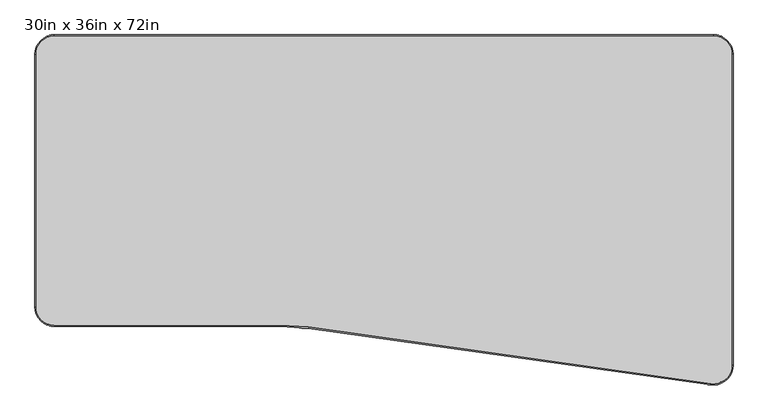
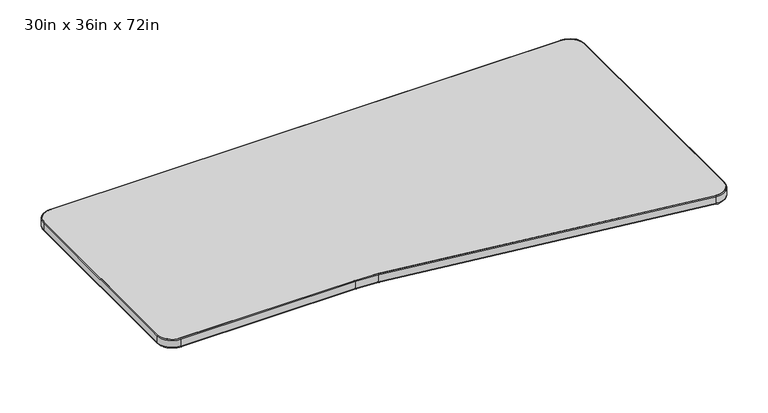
"""IFC4 building model written with IfcOpenShell, lengths in millimetres: furniture geometry, Steelcase - Answer Solution - Universal Table - Transition - Right : 30in x 36in x 72in."""

from ifc_helpers import new_model, si_unit, point, frame, frame_2d, origin, place, context, project, spatial, polyline, circle_curve, ellipse_curve, trimmed, segment, composite_curve, outline, extrude, source, transform, mapped, element, save
from ifc_brep_helpers import plane_surface, cylinder_surface, revolved_surface, advanced_brep


def furniture_30in_x_36in_x_72in_a0267181(model_context):
    return source(origin(), model_context, "Body", "SolidModel", [
        extrude(outline(composite_curve([segment(polyline([(50.8000015, -3.0479999), (1771.65, -3.0479999)]), True, "CONTINUOUS"), segment(trimmed(circle_curve(frame_2d((1771.65, -50.8000271)), 47.7520271), [point((1771.65, -3.0479999))], [point((1819.4020271, -50.8000271))], False, "CARTESIAN"), True, "CONTINUOUS"), segment(polyline([(1819.4020271, -50.8000271), (1819.4020271, -863.5999758)]), True, "CONTINUOUS"), segment(trimmed(circle_curve(frame_2d((1771.567308, -863.8293394)), 47.835269), [point((1819.4020271, -863.5999758))], [point((1765.7376552, -911.3080515))], False, "CARTESIAN"), True, "CONTINUOUS"), segment(polyline([(1765.7376552, -911.3080515), (714.3280552, -763.4988184)]), True, "CONTINUOUS"), segment(trimmed(circle_curve(frame_2d((639.9393929, -1369.3458544)), 610.3968415), [point((714.3280552, -763.4988184))], [point((639.8259893, -758.9490234))], True, "CARTESIAN"), True, "CONTINUOUS"), segment(polyline([(639.8259893, -758.9490234), (50.8000015, -758.9490234)]), True, "CONTINUOUS"), segment(trimmed(circle_curve(frame_2d((50.8000015, -711.1970219)), 47.7520016), [point((50.8000015, -758.9490234))], [point((3.0479999, -711.1970219))], False, "CARTESIAN"), True, "CONTINUOUS"), segment(polyline([(3.0479999, -711.1970219), (3.0479999, -50.8000015)]), True, "CONTINUOUS"), segment(trimmed(circle_curve(frame_2d((50.8000015, -50.8000015)), 47.7520016), [point((3.0479999, -50.8000015))], [point((50.8000015, -3.0479999))], False, "CARTESIAN"), True, "CONTINUOUS")], self_intersect=False)), frame((0.0, 0.0, 668.274), z_axis=(0.0, 0.0, 1.0), x_axis=(1.0, 0.0, 0.0)), (0.0, 0.0, 1.0), 30.0481659),
        advanced_brep(
        [(714.3280552, -763.498818, 668.1439926), (639.8259893, -758.9490231, 668.1439926), (639.8259893, -758.9490231, 698.3221659), (714.3280552, -763.498818, 698.3221659), (713.9562346, -766.5270538, 671.19497), (639.8265562, -762.0000003, 671.19497), (713.9562346, -766.5270538, 695.2711886), (639.8265562, -762.0000003, 695.2711886), (1765.1104635, -911.2310417, 698.3221659), (1765.1104635, -911.2310417, 668.1439926), (1764.6856962, -914.2523056, 671.19497), (1764.6856962, -914.2523056, 695.2711886), (1819.4020268, -863.1979241, 668.1439926), (1819.4020268, -863.1979241, 698.3221659), (1822.4530041, -863.1979241, 671.19497), (1822.4530041, -863.1979241, 695.2711886), (1819.4020268, -50.8000271, 698.3221659), (1819.4020268, -50.8000271, 668.1439926), (1822.4530041, -50.8000271, 671.19497), (1822.4530041, -50.8000271, 695.2711886), (1771.65, -3.0480003, 668.1439926), (1771.65, -3.0480003, 698.3221659), (1771.65, 0.002977, 671.19497), (1771.65, 0.002977, 695.2711886), (50.8000015, -3.0480003, 698.3221659), (50.8000015, -3.0480003, 668.1439926), (50.8000015, 0.002977, 671.19497), (50.8000015, 0.002977, 695.2711886), (3.0480003, -50.8000015, 668.1439926), (3.0480003, -50.8000015, 698.3221659), (-0.002977, -50.8000015, 671.19497), (-0.002977, -50.8000015, 695.2711886), (3.0480003, -711.1970219, 698.3221659), (3.0480003, -711.1970219, 668.1439926), (-0.002977, -711.1970219, 671.19497), (-0.002977, -711.1970219, 695.2711886), (50.8000015, -758.9490231, 668.1439926), (50.8000015, -758.9490231, 698.3221659), (50.8000015, -762.0000004, 671.19497), (50.8000015, -762.0000004, 695.2711886)],
        [
            (0, 1, circle_curve(frame((639.9393929, -1369.3458543, 668.1439926), z_axis=(0.0, 0.0, 1.0), x_axis=(-0.00018578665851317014, 0.9999999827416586, 0.0)), 610.3968418)),
            (1, 2),
            (2, 3, circle_curve(frame((639.9393929, -1369.3458543, 698.3221659), z_axis=(0.0, 0.0, -1.0), x_axis=(-0.00018578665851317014, 0.9999999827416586, 0.0)), 610.3968418)),
            (3, 0),
            (4, 5, circle_curve(frame((639.9393929, -1369.3458543, 671.19497), z_axis=(0.0, 0.0, 1.0), x_axis=(-0.00018578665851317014, 0.9999999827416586, 0.0)), 607.3458645)),
            (5, 1, circle_curve(frame((639.8259893, -758.9490231, 671.19497), z_axis=(0.9999999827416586, 0.00018578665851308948, 0.0), x_axis=(-0.00018578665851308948, 0.9999999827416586, 0.0)), 3.0509773)),
            (0, 4, circle_curve(frame((714.3280552, -763.498818, 671.19497), z_axis=(-0.9925461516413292, 0.12186934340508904, 0.0), x_axis=(0.12186934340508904, 0.9925461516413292, 0.0)), 3.0509773)),
            (6, 7, circle_curve(frame((639.9393929, -1369.3458543, 695.2711886), z_axis=(0.0, 0.0, 1.0), x_axis=(-0.00018578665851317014, 0.9999999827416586, 0.0)), 607.3458645)),
            (7, 5),
            (4, 6),
            (2, 7, circle_curve(frame((639.8259893, -758.9490231, 695.2711886), z_axis=(0.9999999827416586, 0.00018578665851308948, 0.0), x_axis=(-0.00018578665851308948, 0.9999999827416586, 0.0)), 3.0509773)),
            (6, 3, circle_curve(frame((714.3280552, -763.498818, 695.2711886), z_axis=(-0.9925461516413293, 0.12186934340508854, 0.0), x_axis=(0.12186934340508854, 0.9925461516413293, 0.0)), 3.0509773)),
            (3, 8),
            (8, 9),
            (9, 0),
            (9, 10, circle_curve(frame((1765.1104635, -911.2310417, 671.19497), z_axis=(-0.9902610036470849, 0.1392233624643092, 0.0), x_axis=(0.1392233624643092, 0.9902610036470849, 0.0)), 3.0509773)),
            (10, 4),
            (10, 11),
            (11, 6),
            (11, 8, circle_curve(frame((1765.1104635, -911.2310417, 695.2711886), z_axis=(-0.9902610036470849, 0.1392233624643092, 0.0), x_axis=(0.1392233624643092, 0.9902610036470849, 0.0)), 3.0509773)),
            (12, 9, circle_curve(frame((1771.0081888, -863.1979241, 668.1439926), z_axis=(0.0, 0.0, -1.0), x_axis=(-0.1218693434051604, -0.9925461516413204, 0.0)), 48.393838)),
            (8, 13, circle_curve(frame((1771.0081888, -863.1979241, 698.3221659), z_axis=(0.0, 0.0, 1.0), x_axis=(-0.1218693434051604, -0.9925461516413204, 0.0)), 48.393838)),
            (13, 12),
            (14, 10, circle_curve(frame((1771.0081888, -863.1979241, 671.19497), z_axis=(0.0, 0.0, -1.0), x_axis=(-0.1218693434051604, -0.9925461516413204, 0.0)), 51.4448153)),
            (12, 14, circle_curve(frame((1819.4020268, -863.1979241, 671.19497), z_axis=(0.0, -1.0, 0.0), x_axis=(-1.0, 0.0, 0.0)), 3.0509773)),
            (15, 11, circle_curve(frame((1771.0081888, -863.1979241, 695.2711886), z_axis=(0.0, 0.0, -1.0), x_axis=(-0.1218693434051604, -0.9925461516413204, 0.0)), 51.4448153)),
            (14, 15),
            (15, 13, circle_curve(frame((1819.4020268, -863.1979241, 695.2711886), z_axis=(0.0, -1.0, 0.0), x_axis=(-1.0, 0.0, 0.0)), 3.0509773)),
            (13, 16),
            (16, 17),
            (17, 12),
            (17, 18, circle_curve(frame((1819.4020268, -50.8000271, 671.19497), z_axis=(0.0, -1.0, 0.0), x_axis=(-1.0, 0.0, 0.0)), 3.0509773)),
            (18, 14),
            (18, 19),
            (19, 15),
            (19, 16, circle_curve(frame((1819.4020268, -50.8000271, 695.2711886), z_axis=(0.0, -1.0, 0.0), x_axis=(-1.0, 0.0, 0.0)), 3.0509773)),
            (20, 17, circle_curve(frame((1771.65, -50.8000271, 668.1439926), z_axis=(0.0, 0.0, -1.0), x_axis=(1.0, 0.0, 0.0)), 47.7520268)),
            (16, 21, circle_curve(frame((1771.65, -50.8000271, 698.3221659), z_axis=(0.0, 0.0, 1.0), x_axis=(1.0, 0.0, 0.0)), 47.7520268)),
            (21, 20),
            (22, 18, circle_curve(frame((1771.65, -50.8000271, 671.19497), z_axis=(0.0, 0.0, -1.0), x_axis=(1.0, 0.0, 0.0)), 50.8030041)),
            (20, 22, circle_curve(frame((1771.65, -3.0480003, 671.19497), z_axis=(1.0, 0.0, 0.0), x_axis=(0.0, -1.0, 0.0)), 3.0509773)),
            (23, 19, circle_curve(frame((1771.65, -50.8000271, 695.2711886), z_axis=(0.0, 0.0, -1.0), x_axis=(1.0, 0.0, 0.0)), 50.8030041)),
            (22, 23),
            (23, 21, circle_curve(frame((1771.65, -3.0480003, 695.2711886), z_axis=(1.0, 0.0, 0.0), x_axis=(0.0, -1.0, 0.0)), 3.0509773)),
            (21, 24),
            (24, 25),
            (25, 20),
            (25, 26, circle_curve(frame((50.8000015, -3.0480003, 671.19497), z_axis=(1.0, 0.0, 0.0), x_axis=(0.0, -1.0, 0.0)), 3.0509773)),
            (26, 22),
            (26, 27),
            (27, 23),
            (27, 24, circle_curve(frame((50.8000015, -3.0480003, 695.2711886), z_axis=(1.0, 0.0, 0.0), x_axis=(0.0, -1.0, 0.0)), 3.0509773)),
            (28, 25, circle_curve(frame((50.8000015, -50.8000015, 668.1439926), z_axis=(0.0, 0.0, -1.0), x_axis=(0.0, 1.0, 0.0)), 47.7520012)),
            (24, 29, circle_curve(frame((50.8000015, -50.8000015, 698.3221659), z_axis=(0.0, 0.0, 1.0), x_axis=(0.0, 1.0, 0.0)), 47.7520012)),
            (29, 28),
            (30, 26, circle_curve(frame((50.8000015, -50.8000015, 671.19497), z_axis=(0.0, 0.0, -1.0), x_axis=(0.0, 1.0, 0.0)), 50.8029785)),
            (28, 30, circle_curve(frame((3.0480003, -50.8000015, 671.19497), z_axis=(0.0, 1.0, 0.0), x_axis=(1.0, 0.0, 0.0)), 3.0509773)),
            (31, 27, circle_curve(frame((50.8000015, -50.8000015, 695.2711886), z_axis=(0.0, 0.0, -1.0), x_axis=(0.0, 1.0, 0.0)), 50.8029785)),
            (30, 31),
            (31, 29, circle_curve(frame((3.0480003, -50.8000015, 695.2711886), z_axis=(0.0, 1.0, 0.0), x_axis=(1.0, 0.0, 0.0)), 3.0509773)),
            (29, 32),
            (32, 33),
            (33, 28),
            (33, 34, circle_curve(frame((3.0480003, -711.1970219, 671.19497), z_axis=(0.0, 1.0, 0.0), x_axis=(1.0, 0.0, 0.0)), 3.0509773)),
            (34, 30),
            (34, 35),
            (35, 31),
            (35, 32, circle_curve(frame((3.0480003, -711.1970219, 695.2711886), z_axis=(0.0, 1.0, 0.0), x_axis=(1.0, 0.0, 0.0)), 3.0509773)),
            (36, 33, circle_curve(frame((50.8000015, -711.1970219, 668.1439926), z_axis=(0.0, 0.0, -1.0), x_axis=(-1.0, 0.0, 0.0)), 47.7520012)),
            (32, 37, circle_curve(frame((50.8000015, -711.1970219, 698.3221659), z_axis=(0.0, 0.0, 1.0), x_axis=(-1.0, 0.0, 0.0)), 47.7520012)),
            (37, 36),
            (38, 34, circle_curve(frame((50.8000015, -711.1970219, 671.19497), z_axis=(0.0, 0.0, -1.0), x_axis=(-1.0, 0.0, 0.0)), 50.8029785)),
            (36, 38, circle_curve(frame((50.8000015, -758.9490231, 671.19497), z_axis=(-1.0, 0.0, 0.0), x_axis=(0.0, 1.0, 0.0)), 3.0509773)),
            (39, 35, circle_curve(frame((50.8000015, -711.1970219, 695.2711886), z_axis=(0.0, 0.0, -1.0), x_axis=(-1.0, 0.0, 0.0)), 50.8029785)),
            (38, 39),
            (39, 37, circle_curve(frame((50.8000015, -758.9490231, 695.2711886), z_axis=(-1.0, 0.0, 0.0), x_axis=(0.0, 1.0, 0.0)), 3.0509773)),
            (37, 2),
            (1, 36),
            (5, 38),
            (7, 39),
        ],
        [
            cylinder_surface(frame((639.9393929, -1369.3458543, 0.0), z_axis=(0.0, 0.0, -1.0), x_axis=(-0.00018578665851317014, 0.9999999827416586, 0.0)), 610.3968418),
            revolved_surface(trimmed(ellipse_curve(frame((639.8259893, -758.9490231, 671.19497), z_axis=(-0.9999999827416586, -0.00018578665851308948, 0.0), x_axis=(-0.00018578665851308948, 0.9999999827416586, 0.0)), 3.0509773, 3.0509773), [point((639.8259893, -758.9490231, 668.1439926))], [point((639.8265562, -762.0000003, 671.19497))], True, "CARTESIAN"), (639.9393929, -1369.3458543, 0.0), (0.0, 0.0, -1.0)),
            revolved_surface(polyline([(639.8265561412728, -762.0000002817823, 671.19497), (639.8265561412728, -762.0000002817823, 695.2711886)]), (639.9393929, -1369.3458543, 0.0), (0.0, 0.0, -1.0)),
            revolved_surface(trimmed(ellipse_curve(frame((639.8259893, -758.9490231, 695.2711886), z_axis=(-0.9999999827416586, -0.00018578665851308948, 0.0), x_axis=(-0.00018578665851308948, 0.9999999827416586, 0.0)), 3.0509773, 3.0509773), [point((639.8265562, -762.0000003, 695.2711886))], [point((639.8259893, -758.9490231, 698.3221659))], True, "CARTESIAN"), (639.9393929, -1369.3458543, 0.0), (0.0, 0.0, -1.0)),
            plane_surface(frame((714.3280552, -763.498818, 698.3221659), z_axis=(0.13922336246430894, 0.9902610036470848, 0.0), x_axis=(0.9902610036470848, -0.13922336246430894, 0.0))),
            cylinder_surface(frame((714.3280552, -763.498818, 671.19497), z_axis=(-0.9902610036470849, 0.1392233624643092, 0.0), x_axis=(0.1392233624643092, 0.9902610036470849, 0.0)), 3.0509773),
            plane_surface(frame((713.9561777, -766.5275178, 671.19497), z_axis=(-0.13922336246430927, -0.9902610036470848, 0.0), x_axis=(0.9902610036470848, -0.13922336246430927, 0.0))),
            cylinder_surface(frame((714.3280552, -763.498818, 695.2711886), z_axis=(-0.9902610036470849, 0.1392233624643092, 0.0), x_axis=(0.1392233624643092, 0.9902610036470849, 0.0)), 3.0509773),
            revolved_surface(polyline([(1765.1104635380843, -911.2310417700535, 698.3221659), (1765.1104635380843, -911.2310417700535, 668.1439926)]), (1771.0081888, -863.1979241, 0.0), (0.0, 0.0, 1.0)),
            revolved_surface(trimmed(ellipse_curve(frame((1765.1104635, -911.2310417, 671.19497), z_axis=(-0.9925461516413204, 0.12186934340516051, 0.0), x_axis=(0.12186934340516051, 0.9925461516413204, 0.0)), 3.0509773, 3.0509773), [point((1765.1104635, -911.2310417, 668.1439926))], [point((1764.7386429, -914.2592775, 671.19497))], True, "CARTESIAN"), (1771.0081888, -863.1979241, 0.0), (0.0, 0.0, 1.0)),
            cylinder_surface(frame((1771.0081888, -863.1979241, 0.0), z_axis=(0.0, 0.0, 1.0), x_axis=(-0.1218693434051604, -0.9925461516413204, 0.0)), 51.4448153),
            revolved_surface(trimmed(ellipse_curve(frame((1765.1104635, -911.2310417, 695.2711886), z_axis=(-0.9925461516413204, 0.12186934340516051, 0.0), x_axis=(0.12186934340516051, 0.9925461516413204, 0.0)), 3.0509773, 3.0509773), [point((1764.7386429, -914.2592775, 695.2711886))], [point((1765.1104635, -911.2310417, 698.3221659))], True, "CARTESIAN"), (1771.0081888, -863.1979241, 0.0), (0.0, 0.0, 1.0)),
            plane_surface(frame((1819.4020268, -863.1979241, 698.3221659), z_axis=(-1.0, 0.0, 0.0), x_axis=(0.0, 1.0, 0.0))),
            cylinder_surface(frame((1819.4020268, -863.1979241, 671.19497), z_axis=(0.0, -1.0, 0.0), x_axis=(-1.0, 0.0, 0.0)), 3.0509773),
            plane_surface(frame((1822.4530041, -863.1979241, 671.19497), z_axis=(1.0, 0.0, 0.0), x_axis=(0.0, 1.0, 0.0))),
            cylinder_surface(frame((1819.4020268, -863.1979241, 695.2711886), z_axis=(0.0, -1.0, 0.0), x_axis=(-1.0, 0.0, 0.0)), 3.0509773),
            revolved_surface(polyline([(1819.4020268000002, -50.8000271, 698.3221659), (1819.4020268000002, -50.8000271, 668.1439926)]), (1771.65, -50.8000271, 0.0), (0.0, 0.0, 1.0)),
            revolved_surface(trimmed(ellipse_curve(frame((1819.4020268, -50.8000271, 671.19497), z_axis=(0.0, -1.0, 0.0), x_axis=(-1.0, 0.0, 0.0)), 3.0509773, 3.0509773), [point((1819.4020268, -50.8000271, 668.1439926))], [point((1822.4530041, -50.8000271, 671.19497))], True, "CARTESIAN"), (1771.65, -50.8000271, 0.0), (0.0, 0.0, 1.0)),
            cylinder_surface(frame((1771.65, -50.8000271, 0.0), z_axis=(0.0, 0.0, 1.0), x_axis=(1.0, 0.0, 0.0)), 50.8030041),
            revolved_surface(trimmed(ellipse_curve(frame((1819.4020268, -50.8000271, 695.2711886), z_axis=(0.0, -1.0, 0.0), x_axis=(-1.0, 0.0, 0.0)), 3.0509773, 3.0509773), [point((1822.4530041, -50.8000271, 695.2711886))], [point((1819.4020268, -50.8000271, 698.3221659))], True, "CARTESIAN"), (1771.65, -50.8000271, 0.0), (0.0, 0.0, 1.0)),
            plane_surface(frame((1771.65, -3.0480003, 698.3221659), z_axis=(0.0, -1.0, 0.0), x_axis=(-1.0, 0.0, 0.0))),
            cylinder_surface(frame((1771.65, -3.0480003, 671.19497), z_axis=(1.0, 0.0, 0.0), x_axis=(0.0, -1.0, 0.0)), 3.0509773),
            plane_surface(frame((1771.65, 0.002977, 671.19497), z_axis=(0.0, 1.0, 0.0), x_axis=(-1.0, 0.0, 0.0))),
            cylinder_surface(frame((1771.65, -3.0480003, 695.2711886), z_axis=(1.0, 0.0, 0.0), x_axis=(0.0, -1.0, 0.0)), 3.0509773),
            revolved_surface(polyline([(50.8000015, -3.048000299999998, 698.3221659), (50.8000015, -3.048000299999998, 668.1439926)]), (50.8000015, -50.8000015, 0.0), (0.0, 0.0, 1.0)),
            revolved_surface(trimmed(ellipse_curve(frame((50.8000015, -3.0480003, 671.19497), z_axis=(1.0, 0.0, 0.0), x_axis=(0.0, -1.0, 0.0)), 3.0509773, 3.0509773), [point((50.8000015, -3.0480003, 668.1439926))], [point((50.8000015, 0.002977, 671.19497))], True, "CARTESIAN"), (50.8000015, -50.8000015, 0.0), (0.0, 0.0, 1.0)),
            cylinder_surface(frame((50.8000015, -50.8000015, 0.0), z_axis=(0.0, 0.0, 1.0), x_axis=(0.0, 1.0, 0.0)), 50.8029785),
            revolved_surface(trimmed(ellipse_curve(frame((50.8000015, -3.0480003, 695.2711886), z_axis=(1.0, 0.0, 0.0), x_axis=(0.0, -1.0, 0.0)), 3.0509773, 3.0509773), [point((50.8000015, 0.002977, 695.2711886))], [point((50.8000015, -3.0480003, 698.3221659))], True, "CARTESIAN"), (50.8000015, -50.8000015, 0.0), (0.0, 0.0, 1.0)),
            plane_surface(frame((3.0480003, -50.8000015, 698.3221659), z_axis=(1.0, 0.0, 0.0), x_axis=(0.0, -1.0, 0.0))),
            cylinder_surface(frame((3.0480003, -50.8000015, 671.19497), z_axis=(0.0, 1.0, 0.0), x_axis=(1.0, 0.0, 0.0)), 3.0509773),
            plane_surface(frame((-0.002977, -50.8000015, 671.19497), z_axis=(-1.0, 0.0, 0.0), x_axis=(0.0, -1.0, 0.0))),
            cylinder_surface(frame((3.0480003, -50.8000015, 695.2711886), z_axis=(0.0, 1.0, 0.0), x_axis=(1.0, 0.0, 0.0)), 3.0509773),
            revolved_surface(polyline([(3.048000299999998, -711.1970219, 698.3221659), (3.048000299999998, -711.1970219, 668.1439926)]), (50.8000015, -711.1970219, 0.0), (0.0, 0.0, 1.0)),
            revolved_surface(trimmed(ellipse_curve(frame((3.0480003, -711.1970219, 671.19497), z_axis=(0.0, 1.0, 0.0), x_axis=(1.0, 0.0, 0.0)), 3.0509773, 3.0509773), [point((3.0480003, -711.1970219, 668.1439926))], [point((-0.002977, -711.1970219, 671.19497))], True, "CARTESIAN"), (50.8000015, -711.1970219, 0.0), (0.0, 0.0, 1.0)),
            cylinder_surface(frame((50.8000015, -711.1970219, 0.0), z_axis=(0.0, 0.0, 1.0), x_axis=(-1.0, 0.0, 0.0)), 50.8029785),
            revolved_surface(trimmed(ellipse_curve(frame((3.0480003, -711.1970219, 695.2711886), z_axis=(0.0, 1.0, 0.0), x_axis=(1.0, 0.0, 0.0)), 3.0509773, 3.0509773), [point((-0.002977, -711.1970219, 695.2711886))], [point((3.0480003, -711.1970219, 698.3221659))], True, "CARTESIAN"), (50.8000015, -711.1970219, 0.0), (0.0, 0.0, 1.0)),
            plane_surface(frame((50.8000015, -758.9490231, 698.3221659), z_axis=(0.0, 1.0, 0.0), x_axis=(1.0, 0.0, 0.0))),
            cylinder_surface(frame((50.8000015, -758.9490231, 671.19497), z_axis=(-1.0, 0.0, 0.0), x_axis=(0.0, 1.0, 0.0)), 3.0509773),
            plane_surface(frame((50.8000015, -762.0000004, 671.19497), z_axis=(0.0, -1.0, 0.0), x_axis=(1.0, 0.0, 0.0))),
            cylinder_surface(frame((50.8000015, -758.9490231, 695.2711886), z_axis=(-1.0, 0.0, 0.0), x_axis=(0.0, 1.0, 0.0)), 3.0509773),
        ],
        [
            (0, [[1, 2, 3, 4]]),
            (1, [[5, 6, -1, 7]]),
            (2, [[8, 9, -5, 10]]),
            (3, [[-3, 11, -8, 12]]),
            (4, [[-4, 13, 14, 15]]),
            (5, [[-7, -15, 16, 17]]),
            (6, [[-10, -17, 18, 19]]),
            (7, [[-12, -19, 20, -13]]),
            (8, [[21, -14, 22, 23]]),
            (9, [[24, -16, -21, 25]]),
            (10, [[26, -18, -24, 27]]),
            (11, [[-22, -20, -26, 28]]),
            (12, [[-23, 29, 30, 31]]),
            (13, [[-25, -31, 32, 33]]),
            (14, [[-27, -33, 34, 35]]),
            (15, [[-28, -35, 36, -29]]),
            (16, [[37, -30, 38, 39]]),
            (17, [[40, -32, -37, 41]]),
            (18, [[42, -34, -40, 43]]),
            (19, [[-38, -36, -42, 44]]),
            (20, [[-39, 45, 46, 47]]),
            (21, [[-41, -47, 48, 49]]),
            (22, [[-43, -49, 50, 51]]),
            (23, [[-44, -51, 52, -45]]),
            (24, [[53, -46, 54, 55]]),
            (25, [[56, -48, -53, 57]]),
            (26, [[58, -50, -56, 59]]),
            (27, [[-54, -52, -58, 60]]),
            (28, [[-55, 61, 62, 63]]),
            (29, [[-57, -63, 64, 65]]),
            (30, [[-59, -65, 66, 67]]),
            (31, [[-60, -67, 68, -61]]),
            (32, [[69, -62, 70, 71]]),
            (33, [[72, -64, -69, 73]]),
            (34, [[74, -66, -72, 75]]),
            (35, [[-70, -68, -74, 76]]),
            (36, [[-71, 77, -2, 78]]),
            (37, [[-73, -78, -6, 79]]),
            (38, [[-75, -79, -9, 80]]),
            (39, [[-76, -80, -11, -77]]),
        ],
    ),
    ])


if __name__ == "__main__":
    model = new_model("IFC4")
    model_context = context("Model", 3, world=origin())
    ifc_project = project(units=[si_unit("LENGTHUNIT", "METRE", prefix="MILLI")], contexts=[model_context])
    site = spatial("IfcSite", under=ifc_project)
    building = spatial("IfcBuilding", under=site)
    placement = place(None, origin())
    furniture_30in_x_36in_x_72in_shape = furniture_30in_x_36in_x_72in_a0267181(model_context)
    element("IfcFurniture", 1, ObjectType="Steelcase - Answer Solution - Universal Table - Transition - Right : 30in x 36in x 72in", at=placement, inside=building, context=model_context, shape_type="MappedRepresentation", body=[
        mapped(furniture_30in_x_36in_x_72in_shape, transform((0.0, 0.0, 0.0), x_axis=(1.0, 0.0, 0.0), y_axis=(0.0, 1.0, 0.0), z_axis=(0.0, 0.0, 1.0))),
    ])
    save(model, "model.ifc")
